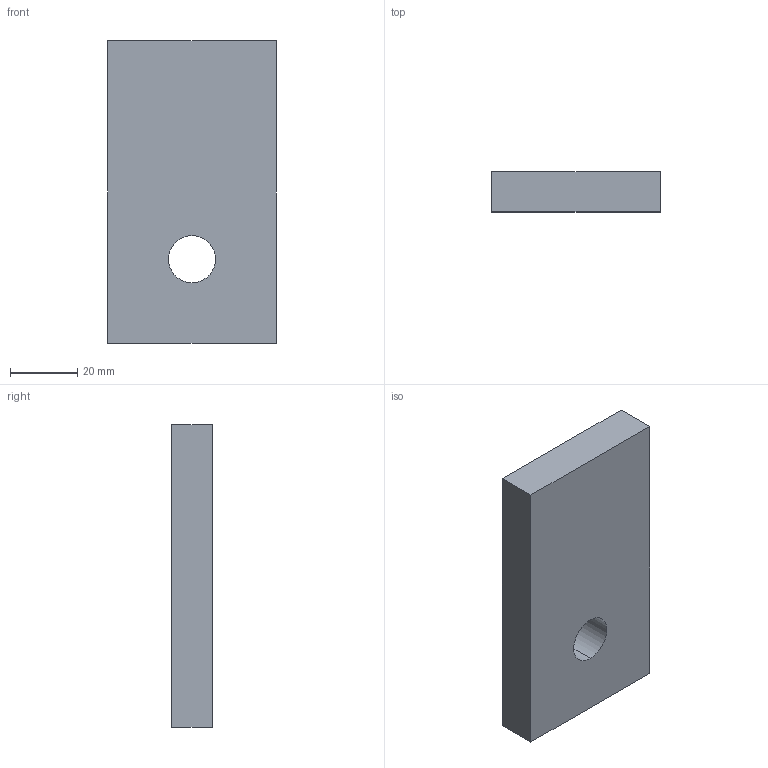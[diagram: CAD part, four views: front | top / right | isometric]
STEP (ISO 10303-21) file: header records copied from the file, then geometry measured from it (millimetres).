
FILE_DESCRIPTION (( 'STEP AP203' ), '1' );
FILE_NAME ('Druckplatte 110310.STEP', '2021-03-16T06:09:20', ( '' ), ( '' ), 'SwSTEP 2.0', 'SolidWorks 2013', '' );
FILE_SCHEMA (( 'CONFIG_CONTROL_DESIGN' ));
Length unit declared in the file: millimetre
Products named in the file (1): Druckplatte 110310
Bounding box: 50 x 12 x 90 mm (x, y, z)
Volume: 52152.7 mm3; surface area: 12579.9 mm2
Topology: 1 solids, 1 shells, 8 faces, 18 edges, 12 vertices
Faces by surface type: plane 6, cylinder 2
Entity records: 309 total; most frequent: DIRECTION 40, CARTESIAN_POINT 39, ORIENTED_EDGE 36, EDGE_CURVE 18, LINE 14, VECTOR 14, AXIS2_PLACEMENT_3D 13, VERTEX_POINT 12
